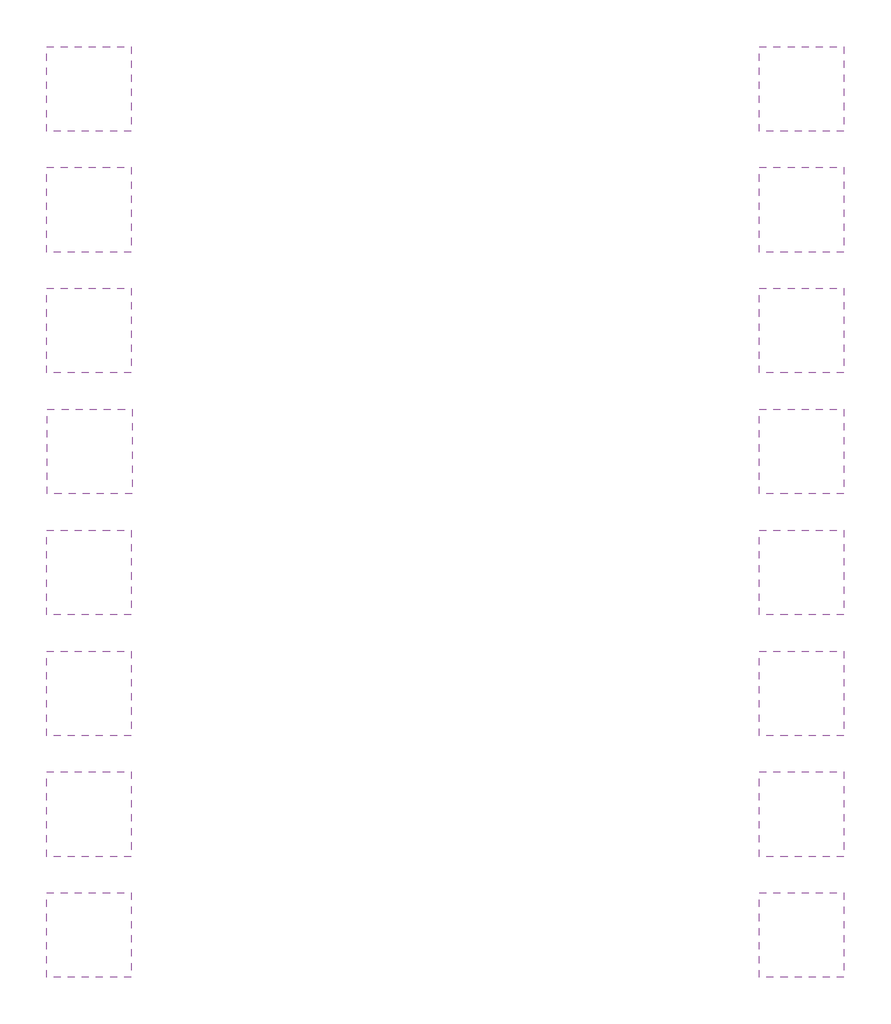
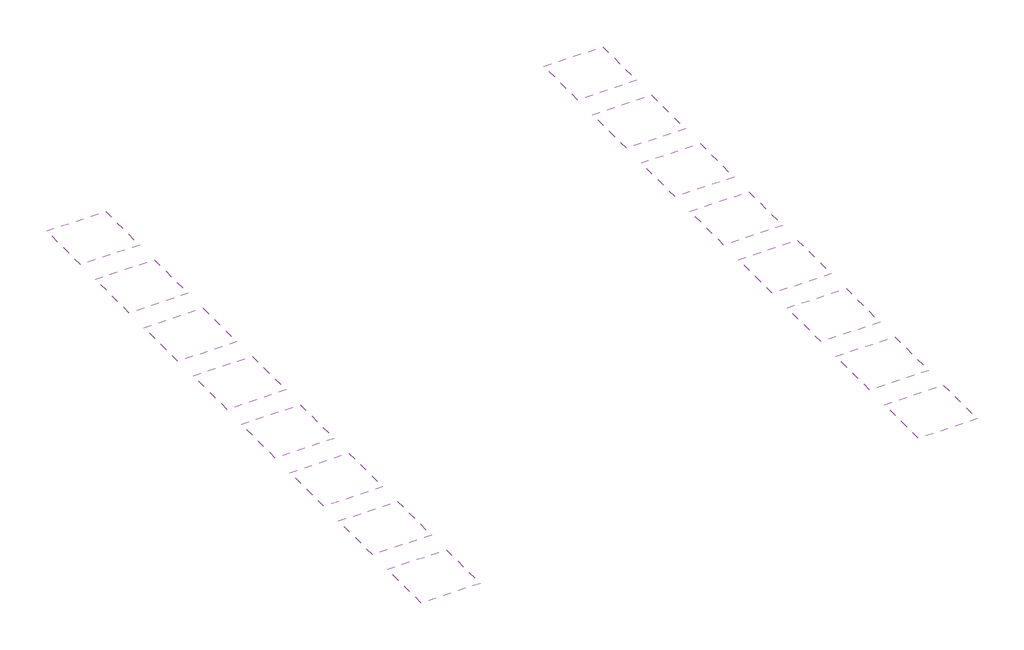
# One storey: 16 coverings.
"""IFC4 building model written with IfcOpenShell, lengths in millimetres."""

from ifc_helpers import new_model, si_unit, frame, origin, place, context, project, spatial, polyline, outline, extrude, element, save

model = new_model("IFC4")

# Units and contexts
model_context = context("Model", 3, world=origin())
ifc_project = project(units=[si_unit("LENGTHUNIT", "METRE", prefix="MILLI")], contexts=[model_context])

# Site, building, storey
site = spatial("IfcSite", under=ifc_project)
building = spatial("IfcBuilding", under=site)
storey = spatial("IfcBuildingStorey", under=building, Name="Gyptone Big Series", Elevation=0.0)

# Coverings
placement = place(None, origin())
element("IfcCovering", 1, ObjectType="Gyptone BIG Quattro 40 (1200mm x 2400mm)", at=placement, inside=storey, context=model_context, shape_type="SweptSolid", body=[
    extrude(outline(polyline([(1488.7108797, -18249.3659517), (1488.7108797, -25249.3659517), (-5511.2891203, -25249.3659517), (-5511.2891203, -18249.3659517), (1488.7108797, -18249.3659517)])), frame((0.0, 0.0, 2600.0), z_axis=(0.0, 0.0, 1.0), x_axis=(1.0, 0.0, 0.0)), (0.0, 0.0, 1.0), 12.5),
])
element("IfcCovering", 2, ObjectType="Gyptone BIG Quattro 41 (1200mm x 2400mm)", at=placement, inside=storey, context=model_context, shape_type="SweptSolid", body=[
    extrude(outline(polyline([(1561.445482, -28249.3659517), (1561.445482, -35249.3659517), (-5438.554518, -35249.3659517), (-5438.554518, -28249.3659517), (1561.445482, -28249.3659517)])), frame((0.0, 0.0, 2600.0), z_axis=(0.0, 0.0, 1.0), x_axis=(1.0, 0.0, 0.0)), (0.0, 0.0, 1.0), 12.5),
])
element("IfcCovering", 3, ObjectType="Gyptone BIG Quattro 42 (1200mm x 2400mm)", at=placement, inside=storey, context=model_context, shape_type="SweptSolid", body=[
    extrude(outline(polyline([(1488.7108797, -58249.3659517), (1488.7108797, -65249.3659517), (-5511.2891203, -65249.3659517), (-5511.2891203, -58249.3659517), (1488.7108797, -58249.3659517)])), frame((0.0, 0.0, 2600.0), z_axis=(0.0, 0.0, 1.0), x_axis=(1.0, 0.0, 0.0)), (0.0, 0.0, 1.0), 12.5),
])
element("IfcCovering", 4, ObjectType="Gyptone BIG Quattro 44  (1200mm x 2400mm)", at=placement, inside=storey, context=model_context, shape_type="SweptSolid", body=[
    extrude(outline(polyline([(60488.7108797, 1750.6340483), (60488.7108797, -5249.3659517), (53488.7108797, -5249.3659517), (53488.7108797, 1750.6340483), (60488.7108797, 1750.6340483)])), frame((0.0, 0.0, 2600.0), z_axis=(0.0, 0.0, 1.0), x_axis=(1.0, 0.0, 0.0)), (0.0, 0.0, 1.0), 12.5),
])
element("IfcCovering", 5, ObjectType="Gyptone BIG Quattro 43 (900mm x 2700mm)", at=placement, inside=storey, context=model_context, shape_type="SweptSolid", body=[
    extrude(outline(polyline([(1488.7108797, -68249.3659517), (1488.7108797, -75249.3659517), (-5511.2891203, -75249.3659517), (-5511.2891203, -68249.3659517), (1488.7108797, -68249.3659517)])), frame((0.0, 0.0, 2600.0), z_axis=(0.0, 0.0, 1.0), x_axis=(1.0, 0.0, 0.0)), (0.0, 0.0, 1.0), 12.5),
])
element("IfcCovering", 6, ObjectType="Gyptone BIG Quattro 46  (1200mm x 2400mm)", at=placement, inside=storey, context=model_context, shape_type="SweptSolid", body=[
    extrude(outline(polyline([(60488.7108797, -8249.3659517), (60488.7108797, -15249.3659517), (53488.7108797, -15249.3659517), (53488.7108797, -8249.3659517), (60488.7108797, -8249.3659517)])), frame((0.0, 0.0, 2600.0), z_axis=(0.0, 0.0, 1.0), x_axis=(1.0, 0.0, 0.0)), (0.0, 0.0, 1.0), 12.5),
])
element("IfcCovering", 7, ObjectType="Gyptone BIG Quattro 47  (1200mm x 2400mm)", at=placement, inside=storey, context=model_context, shape_type="SweptSolid", body=[
    extrude(outline(polyline([(60488.7108797, -18249.3659517), (60488.7108797, -25249.3659517), (53488.7108797, -25249.3659517), (53488.7108797, -18249.3659517), (60488.7108797, -18249.3659517)])), frame((0.0, 0.0, 2600.0), z_axis=(0.0, 0.0, 1.0), x_axis=(1.0, 0.0, 0.0)), (0.0, 0.0, 1.0), 12.5),
])
element("IfcCovering", 8, ObjectType="Gyptone BIG Sixto 63 (1200mm x 2400mm)", at=placement, inside=storey, context=model_context, shape_type="SweptSolid", body=[
    extrude(outline(polyline([(60488.7108797, -38249.3659517), (60488.7108797, -45249.3659517), (53488.7108797, -45249.3659517), (53488.7108797, -38249.3659517), (60488.7108797, -38249.3659517)])), frame((0.0, 0.0, 2600.0), z_axis=(0.0, 0.0, 1.0), x_axis=(1.0, 0.0, 0.0)), (0.0, 0.0, 1.0), 12.5),
])
element("IfcCovering", 9, ObjectType="Gyptone BIG Sixto 65 (900mm x 2700mm)", at=placement, inside=storey, context=model_context, shape_type="SweptSolid", body=[
    extrude(outline(polyline([(60488.7108797, -48249.3659517), (60488.7108797, -55249.3659517), (53488.7108797, -55249.3659517), (53488.7108797, -48249.3659517), (60488.7108797, -48249.3659517)])), frame((0.0, 0.0, 2600.0), z_axis=(0.0, 0.0, 1.0), x_axis=(1.0, 0.0, 0.0)), (0.0, 0.0, 1.0), 12.5),
])
element("IfcCovering", 10, ObjectType="Gyptone BIG Line 5 (900mm x 2700mm)", at=placement, inside=storey, context=model_context, shape_type="SweptSolid", body=[
    extrude(outline(polyline([(60488.7108797, -58249.3659517), (60488.7108797, -65249.3659517), (53488.7108797, -65249.3659517), (53488.7108797, -58249.3659517), (60488.7108797, -58249.3659517)])), frame((0.0, 0.0, 2600.0), z_axis=(0.0, 0.0, 1.0), x_axis=(1.0, 0.0, 0.0)), (0.0, 0.0, 1.0), 12.5),
])
element("IfcCovering", 11, ObjectType="Gyptone BIG Line 6 (1200mm x 2400mm)", at=placement, inside=storey, context=model_context, shape_type="SweptSolid", body=[
    extrude(outline(polyline([(60488.7108797, -68249.3659517), (60488.7108797, -75249.3659517), (53488.7108797, -75249.3659517), (53488.7108797, -68249.3659517), (60488.7108797, -68249.3659517)])), frame((0.0, 0.0, 2600.0), z_axis=(0.0, 0.0, 1.0), x_axis=(1.0, 0.0, 0.0)), (0.0, 0.0, 1.0), 12.5),
])
element("IfcCovering", 12, ObjectType="Gyptone BIG Quattro 41 - 1 (1200mm x 2400mm)", at=placement, inside=storey, context=model_context, shape_type="SweptSolid", body=[
    extrude(outline(polyline([(1488.7108797, -38249.3659517), (1488.7108797, -45249.3659517), (-5511.2891203, -45249.3659517), (-5511.2891203, -38249.3659517), (1488.7108797, -38249.3659517)])), frame((0.0, 0.0, 2600.0), z_axis=(0.0, 0.0, 1.0), x_axis=(1.0, 0.0, 0.0)), (0.0, 0.0, 1.0), 12.5),
])
element("IfcCovering", 13, ObjectType="Gyptone BIG Quattro 41 - 2 (1200mm x 2400mm)", at=placement, inside=storey, context=model_context, shape_type="SweptSolid", body=[
    extrude(outline(polyline([(1488.7108797, -48249.3659517), (1488.7108797, -55249.3659517), (-5511.2891203, -55249.3659517), (-5511.2891203, -48249.3659517), (1488.7108797, -48249.3659517)])), frame((0.0, 0.0, 2600.0), z_axis=(0.0, 0.0, 1.0), x_axis=(1.0, 0.0, 0.0)), (0.0, 0.0, 1.0), 12.5),
])
element("IfcCovering", 14, ObjectType="Gyptone BIG Base 31 (1200mm x 2400mm)", at=placement, inside=storey, context=model_context, shape_type="SweptSolid", body=[
    extrude(outline(polyline([(1488.7108797, 1750.6340483), (1488.7108797, -5249.3659517), (-5511.2891203, -5249.3659517), (-5511.2891203, 1750.6340483), (1488.7108797, 1750.6340483)])), frame((0.0, 0.0, 2600.0), z_axis=(0.0, 0.0, 1.0), x_axis=(1.0, 0.0, 0.0)), (0.0, 0.0, 1.0), 12.5),
])
element("IfcCovering", 15, ObjectType="Gyptone BIG Base 35 (900mm x 2700mm)", at=placement, inside=storey, context=model_context, shape_type="SweptSolid", body=[
    extrude(outline(polyline([(1488.7108797, -8249.3659517), (1488.7108797, -15249.3659517), (-5511.2891203, -15249.3659517), (-5511.2891203, -8249.3659517), (1488.7108797, -8249.3659517)])), frame((0.0, 0.0, 2600.0), z_axis=(0.0, 0.0, 1.0), x_axis=(1.0, 0.0, 0.0)), (0.0, 0.0, 1.0), 12.5),
])
element("IfcCovering", 16, ObjectType="Gyptone BIG Quattro 71  (1200mm x 2400mm)", at=placement, inside=storey, context=model_context, shape_type="SweptSolid", body=[
    extrude(outline(polyline([(60488.7108797, -28249.3659517), (60488.7108797, -35249.3659517), (53488.7108797, -35249.3659517), (53488.7108797, -28249.3659517), (60488.7108797, -28249.3659517)])), frame((0.0, 0.0, 2600.0), z_axis=(0.0, 0.0, 1.0), x_axis=(1.0, 0.0, 0.0)), (0.0, 0.0, 1.0), 12.5),
])

save(model, "model.ifc")
